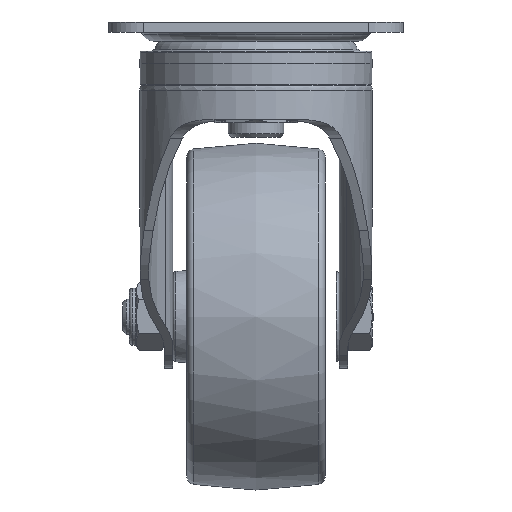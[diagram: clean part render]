
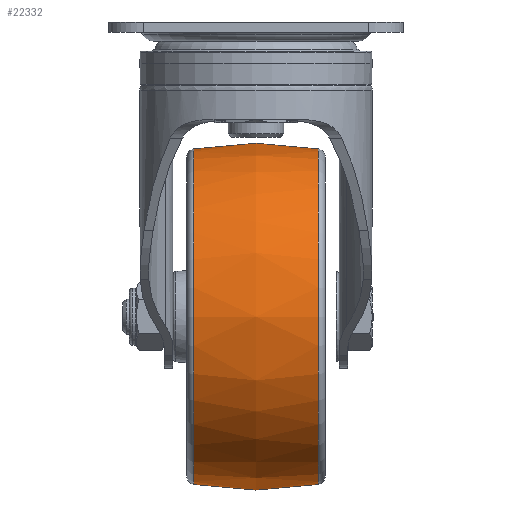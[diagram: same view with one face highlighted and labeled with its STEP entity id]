
A CAD part, left-side view. The second image highlights one B-rep face of the part: STEP entity #22332.
In plain terms, the highlighted free-form (B-spline) face has degree [2, 2] with [3, 9] control points.
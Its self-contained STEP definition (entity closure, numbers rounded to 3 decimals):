
#27=(
BOUNDED_SURFACE()
B_SPLINE_SURFACE(2,2,((#33456,#33457,#33458,#33459,#33460,#33461,#33462,
#33463,#33464),(#33465,#33466,#33467,#33468,#33469,#33470,#33471,#33472,
#33473),(#33474,#33475,#33476,#33477,#33478,#33479,#33480,#33481,#33482)),
 .UNSPECIFIED.,.F.,.T.,.F.)
B_SPLINE_SURFACE_WITH_KNOTS((3,3),(3,2,2,2,3),(-0.18,0.18),
(-3.142,-1.571,0.,1.571,3.142),
 .UNSPECIFIED.)
GEOMETRIC_REPRESENTATION_ITEM()
RATIONAL_B_SPLINE_SURFACE(((1.,0.707,1.,0.707,1.,
0.707,1.,0.707,1.),(0.984,0.696,
0.984,0.696,0.984,0.696,
0.984,0.696,0.984),(1.,0.707,
1.,0.707,1.,0.707,1.,0.707,1.)))
REPRESENTATION_ITEM('')
SURFACE()
);
#6913=FACE_OUTER_BOUND('',#8218,.T.);
#8218=EDGE_LOOP('',(#17600,#17601,#17602,#17603));
#9189=CIRCLE('',#23544,48.376);
#9191=CIRCLE('',#23546,48.376);
#9192=CIRCLE('',#23547,100.);
#10360=VERTEX_POINT('',#33453);
#10361=VERTEX_POINT('',#33483);
#13013=EDGE_CURVE('',#10360,#10360,#9189,.T.);
#13015=EDGE_CURVE('',#10361,#10361,#9191,.T.);
#13016=EDGE_CURVE('',#10361,#10360,#9192,.T.);
#17600=ORIENTED_EDGE('',*,*,#13015,.F.);
#17601=ORIENTED_EDGE('',*,*,#13016,.T.);
#17602=ORIENTED_EDGE('',*,*,#13013,.T.);
#17603=ORIENTED_EDGE('',*,*,#13016,.F.);
#22332=ADVANCED_FACE('',(#6913),#27,.F.);
#23544=AXIS2_PLACEMENT_3D('',#33454,#25908,#25909);
#23546=AXIS2_PLACEMENT_3D('',#33484,#25912,#25913);
#23547=AXIS2_PLACEMENT_3D('',#33485,#25914,#25915);
#25908=DIRECTION('center_axis',(0.,-1.,0.));
#25909=DIRECTION('ref_axis',(-1.,0.,0.));
#25912=DIRECTION('center_axis',(0.,-1.,0.));
#25913=DIRECTION('ref_axis',(-1.,0.,0.));
#25914=DIRECTION('center_axis',(0.,0.,
1.));
#25915=DIRECTION('ref_axis',(1.,0.,0.));
#33453=CARTESIAN_POINT('',(84.376,17.949,-83.8));
#33454=CARTESIAN_POINT('Origin',(36.,17.949,-83.8));
#33456=CARTESIAN_POINT('Ctrl Pts',(84.376,17.949,-83.8));
#33457=CARTESIAN_POINT('Ctrl Pts',(84.376,17.949,-35.424));
#33458=CARTESIAN_POINT('Ctrl Pts',(36.,17.949,-35.424));
#33459=CARTESIAN_POINT('Ctrl Pts',(-12.376,17.949,-35.424));
#33460=CARTESIAN_POINT('Ctrl Pts',(-12.376,17.949,-83.8));
#33461=CARTESIAN_POINT('Ctrl Pts',(-12.376,17.949,-132.176));
#33462=CARTESIAN_POINT('Ctrl Pts',(36.,17.949,-132.176));
#33463=CARTESIAN_POINT('Ctrl Pts',(84.376,17.949,-132.176));
#33464=CARTESIAN_POINT('Ctrl Pts',(84.376,17.949,-83.8));
#33465=CARTESIAN_POINT('Ctrl Pts',(87.651,0.,
-83.8));
#33466=CARTESIAN_POINT('Ctrl Pts',(87.651,0.,
-32.149));
#33467=CARTESIAN_POINT('Ctrl Pts',(36.,0.,
-32.149));
#33468=CARTESIAN_POINT('Ctrl Pts',(-15.651,0.,
-32.149));
#33469=CARTESIAN_POINT('Ctrl Pts',(-15.651,0.,
-83.8));
#33470=CARTESIAN_POINT('Ctrl Pts',(-15.651,0.,
-135.451));
#33471=CARTESIAN_POINT('Ctrl Pts',(36.,0.,
-135.451));
#33472=CARTESIAN_POINT('Ctrl Pts',(87.651,0.,
-135.451));
#33473=CARTESIAN_POINT('Ctrl Pts',(87.651,0.,
-83.8));
#33474=CARTESIAN_POINT('Ctrl Pts',(84.376,-17.949,-83.8));
#33475=CARTESIAN_POINT('Ctrl Pts',(84.376,-17.949,-35.424));
#33476=CARTESIAN_POINT('Ctrl Pts',(36.,-17.949,-35.424));
#33477=CARTESIAN_POINT('Ctrl Pts',(-12.376,-17.949,
-35.424));
#33478=CARTESIAN_POINT('Ctrl Pts',(-12.376,-17.949,
-83.8));
#33479=CARTESIAN_POINT('Ctrl Pts',(-12.376,-17.949,
-132.176));
#33480=CARTESIAN_POINT('Ctrl Pts',(36.,-17.949,-132.176));
#33481=CARTESIAN_POINT('Ctrl Pts',(84.376,-17.949,-132.176));
#33482=CARTESIAN_POINT('Ctrl Pts',(84.376,-17.949,-83.8));
#33483=CARTESIAN_POINT('',(84.376,-17.949,-83.8));
#33484=CARTESIAN_POINT('Origin',(36.,-17.949,-83.8));
#33485=CARTESIAN_POINT('Origin',(-14.,0.,
-83.8));
